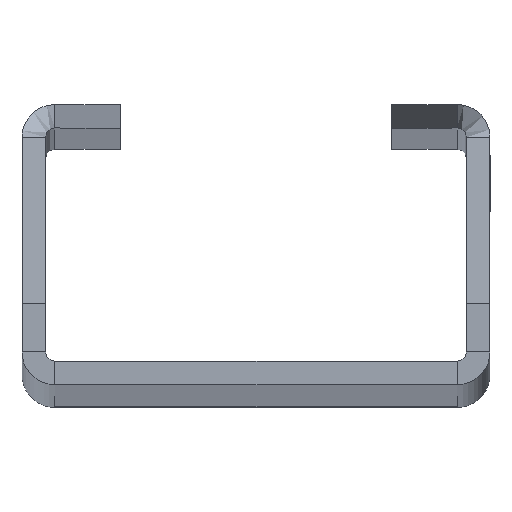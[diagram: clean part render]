
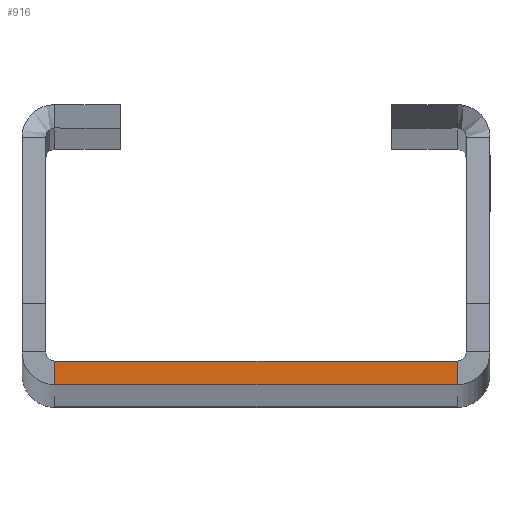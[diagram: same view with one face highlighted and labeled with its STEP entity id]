
A CAD part, top view. The second image highlights one B-rep face of the part: STEP entity #916.
In plain terms, the highlighted planar face has unit normal (0, 0, 1).
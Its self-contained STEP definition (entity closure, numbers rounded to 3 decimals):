
#69 = EDGE_CURVE ( 'NONE', #798, #1573, #147, .T. ) ;
#78 = CARTESIAN_POINT ( 'NONE',  ( 3.5, 2.5, 0. ) ) ;
#147 = LINE ( 'NONE', #1561, #1433 ) ;
#173 = EDGE_LOOP ( 'NONE', ( #307, #1430, #805, #397 ) ) ;
#206 = LINE ( 'NONE', #919, #864 ) ;
#225 = VERTEX_POINT ( 'NONE', #1491 ) ;
#272 = CARTESIAN_POINT ( 'NONE',  ( 46.5, 0., 0. ) ) ;
#276 = EDGE_CURVE ( 'NONE', #225, #1075, #569, .T. ) ;
#307 = ORIENTED_EDGE ( 'NONE', *, *, #875, .T. ) ;
#327 = CARTESIAN_POINT ( 'NONE',  ( 47.5, 3.5, 0. ) ) ;
#352 = DIRECTION ( 'NONE',  ( 0., -1., 0. ) ) ;
#370 = PLANE ( 'NONE',  #1147 ) ;
#397 = ORIENTED_EDGE ( 'NONE', *, *, #69, .T. ) ;
#420 = VECTOR ( 'NONE', #666, 1000. ) ;
#517 = FACE_OUTER_BOUND ( 'NONE', #173, .T. ) ;
#536 = DIRECTION ( 'NONE',  ( 0., 0., 1. ) ) ;
#569 = LINE ( 'NONE', #272, #910 ) ;
#581 = DIRECTION ( 'NONE',  ( 1., 0., 0. ) ) ;
#666 = DIRECTION ( 'NONE',  ( 1., 0., 0. ) ) ;
#682 = DIRECTION ( 'NONE',  ( 1., 0., 0. ) ) ;
#696 = EDGE_CURVE ( 'NONE', #798, #1075, #1404, .T. ) ;
#798 = VERTEX_POINT ( 'NONE', #78 ) ;
#805 = ORIENTED_EDGE ( 'NONE', *, *, #696, .F. ) ;
#864 = VECTOR ( 'NONE', #682, 1000. ) ;
#875 = EDGE_CURVE ( 'NONE', #1573, #225, #206, .T. ) ;
#910 = VECTOR ( 'NONE', #1397, 1000. ) ;
#916 = ADVANCED_FACE ( 'NONE', ( #517 ), #370, .T. ) ;
#919 = CARTESIAN_POINT ( 'NONE',  ( 0., 0., 0. ) ) ;
#1075 = VERTEX_POINT ( 'NONE', #1417 ) ;
#1089 = CARTESIAN_POINT ( 'NONE',  ( 0., 2.5, 0. ) ) ;
#1146 = CARTESIAN_POINT ( 'NONE',  ( 3.5, 0., 0. ) ) ;
#1147 = AXIS2_PLACEMENT_3D ( 'NONE', #327, #536, #581 ) ;
#1397 = DIRECTION ( 'NONE',  ( 0., 1., 0. ) ) ;
#1404 = LINE ( 'NONE', #1089, #420 ) ;
#1417 = CARTESIAN_POINT ( 'NONE',  ( 46.5, 2.5, 0. ) ) ;
#1430 = ORIENTED_EDGE ( 'NONE', *, *, #276, .T. ) ;
#1433 = VECTOR ( 'NONE', #352, 1000. ) ;
#1491 = CARTESIAN_POINT ( 'NONE',  ( 46.5, 0., 0. ) ) ;
#1561 = CARTESIAN_POINT ( 'NONE',  ( 3.5, 2.5, 0. ) ) ;
#1573 = VERTEX_POINT ( 'NONE', #1146 ) ;
